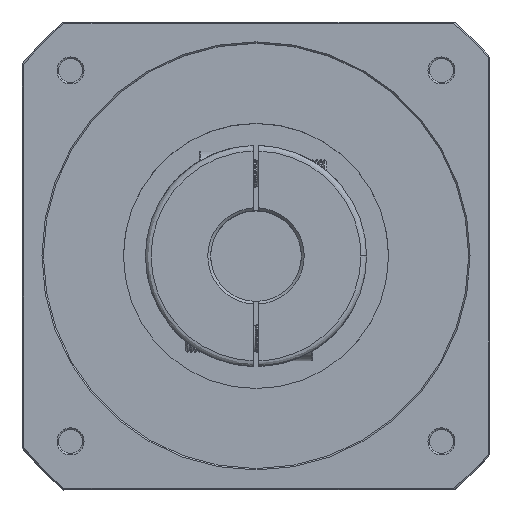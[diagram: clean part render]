
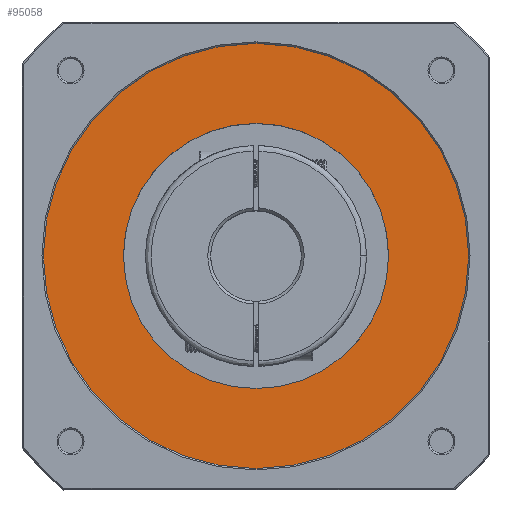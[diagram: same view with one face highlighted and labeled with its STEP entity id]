
A CAD part, top view. The second image highlights one B-rep face of the part: STEP entity #95058.
In plain terms, the highlighted planar face has unit normal (0, 0, -1).
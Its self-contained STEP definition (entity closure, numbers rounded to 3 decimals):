
#242 = CIRCLE ( 'NONE', #67578, 75. ) ;
#2586 = ORIENTED_EDGE ( 'NONE', *, *, #28394, .T. ) ;
#4949 = EDGE_CURVE ( 'NONE', #12160, #16731, #85115, .T. ) ;
#9610 = VERTEX_POINT ( 'NONE', #64114 ) ;
#11562 = AXIS2_PLACEMENT_3D ( 'NONE', #61041, #13354, #69025 ) ;
#12160 = VERTEX_POINT ( 'NONE', #24955 ) ;
#12949 = CARTESIAN_POINT ( 'NONE',  ( -46.75, 0., 221.5 ) ) ;
#13354 = DIRECTION ( 'NONE',  ( 0., 0., 1. ) ) ;
#16731 = VERTEX_POINT ( 'NONE', #12949 ) ;
#16881 = ORIENTED_EDGE ( 'NONE', *, *, #98401, .T. ) ;
#18138 = FACE_OUTER_BOUND ( 'NONE', #41326, .T. ) ;
#19497 = CARTESIAN_POINT ( 'NONE',  ( 0., 0., 221.5 ) ) ;
#20737 = AXIS2_PLACEMENT_3D ( 'NONE', #85520, #37624, #93605 ) ;
#23195 = DIRECTION ( 'NONE',  ( 0., 0., -1. ) ) ;
#24305 = EDGE_CURVE ( 'NONE', #9610, #93352, #242, .T. ) ;
#24955 = CARTESIAN_POINT ( 'NONE',  ( 46.75, 0., 221.5 ) ) ;
#27412 = DIRECTION ( 'NONE',  ( 1., 0., 0. ) ) ;
#28394 = EDGE_CURVE ( 'NONE', #93352, #9610, #30555, .T. ) ;
#30555 = CIRCLE ( 'NONE', #71942, 75. ) ;
#32421 = AXIS2_PLACEMENT_3D ( 'NONE', #36307, #92268, #44266 ) ;
#36307 = CARTESIAN_POINT ( 'NONE',  ( 0., 0., 221.5 ) ) ;
#37624 = DIRECTION ( 'NONE',  ( 0., 0., 1. ) ) ;
#41326 = EDGE_LOOP ( 'NONE', ( #75664, #2586 ) ) ;
#44266 = DIRECTION ( 'NONE',  ( -1., 0., 0. ) ) ;
#45013 = EDGE_LOOP ( 'NONE', ( #16881, #85966 ) ) ;
#53290 = PLANE ( 'NONE',  #20737 ) ;
#53428 = CIRCLE ( 'NONE', #32421, 46.75 ) ;
#55482 = FACE_BOUND ( 'NONE', #45013, .T. ) ;
#61041 = CARTESIAN_POINT ( 'NONE',  ( 0., 0., 221.5 ) ) ;
#64114 = CARTESIAN_POINT ( 'NONE',  ( 75., 0., 221.5 ) ) ;
#67578 = AXIS2_PLACEMENT_3D ( 'NONE', #19497, #75242, #27412 ) ;
#69025 = DIRECTION ( 'NONE',  ( -1., 0., 0. ) ) ;
#70942 = CARTESIAN_POINT ( 'NONE',  ( 0., 0., 221.5 ) ) ;
#71942 = AXIS2_PLACEMENT_3D ( 'NONE', #70942, #23195, #79036 ) ;
#75242 = DIRECTION ( 'NONE',  ( 0., 0., -1. ) ) ;
#75664 = ORIENTED_EDGE ( 'NONE', *, *, #24305, .T. ) ;
#79036 = DIRECTION ( 'NONE',  ( 1., 0., 0. ) ) ;
#85115 = CIRCLE ( 'NONE', #11562, 46.75 ) ;
#85520 = CARTESIAN_POINT ( 'NONE',  ( -75.9, -75.9, 221.5 ) ) ;
#85966 = ORIENTED_EDGE ( 'NONE', *, *, #4949, .T. ) ;
#90091 = CARTESIAN_POINT ( 'NONE',  ( -75., 0., 221.5 ) ) ;
#92268 = DIRECTION ( 'NONE',  ( 0., 0., 1. ) ) ;
#93352 = VERTEX_POINT ( 'NONE', #90091 ) ;
#93605 = DIRECTION ( 'NONE',  ( 1., 0., 0. ) ) ;
#95058 = ADVANCED_FACE ( 'NONE', ( #55482, #18138 ), #53290, .F. ) ;
#98401 = EDGE_CURVE ( 'NONE', #16731, #12160, #53428, .T. ) ;
